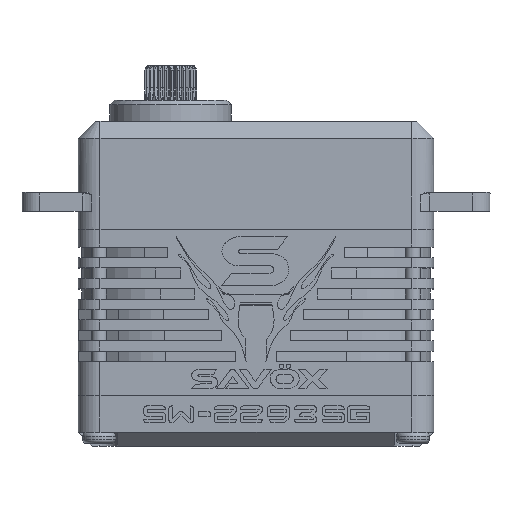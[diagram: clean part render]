
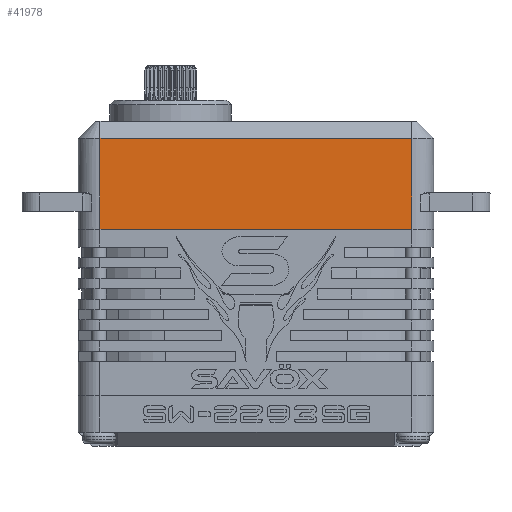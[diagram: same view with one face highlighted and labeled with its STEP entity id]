
A CAD part, top view. The second image highlights one B-rep face of the part: STEP entity #41978.
In plain terms, the highlighted planar face has unit normal (0, 0, 1).
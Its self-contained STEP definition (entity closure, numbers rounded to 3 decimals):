
#1065 = CARTESIAN_POINT ( 'NONE',  ( 27.85, -21.3, 10.5 ) ) ;
#1316 = LINE ( 'NONE', #1065, #19054 ) ;
#3129 = CARTESIAN_POINT ( 'NONE',  ( -8.15, -21.3, 10.5 ) ) ;
#5620 = DIRECTION ( 'NONE',  ( 0., 0., 1. ) ) ;
#7514 = LINE ( 'NONE', #23520, #29846 ) ;
#8866 = DIRECTION ( 'NONE',  ( 0., 1., 0. ) ) ;
#10767 = EDGE_CURVE ( 'NONE', #27109, #36460, #1316, .T. ) ;
#11105 = DIRECTION ( 'NONE',  ( 1., 0., 0. ) ) ;
#11151 = FACE_OUTER_BOUND ( 'NONE', #12976, .T. ) ;
#12140 = DIRECTION ( 'NONE',  ( 1., 0., 0. ) ) ;
#12976 = EDGE_LOOP ( 'NONE', ( #27828, #45577, #17795, #36327 ) ) ;
#13470 = CARTESIAN_POINT ( 'NONE',  ( -8.15, 8.4, 10.5 ) ) ;
#15971 = EDGE_CURVE ( 'NONE', #16050, #36460, #7514, .T. ) ;
#16050 = VERTEX_POINT ( 'NONE', #13470 ) ;
#17392 = VECTOR ( 'NONE', #11105, 1000. ) ;
#17795 = ORIENTED_EDGE ( 'NONE', *, *, #10767, .T. ) ;
#19054 = VECTOR ( 'NONE', #8866, 1000. ) ;
#21095 = VERTEX_POINT ( 'NONE', #27538 ) ;
#23520 = CARTESIAN_POINT ( 'NONE',  ( 27.85, 8.4, 10.5 ) ) ;
#26142 = LINE ( 'NONE', #30125, #17392 ) ;
#27109 = VERTEX_POINT ( 'NONE', #28475 ) ;
#27538 = CARTESIAN_POINT ( 'NONE',  ( -8.15, -2.1, 10.5 ) ) ;
#27828 = ORIENTED_EDGE ( 'NONE', *, *, #45115, .F. ) ;
#28475 = CARTESIAN_POINT ( 'NONE',  ( 27.85, -2.1, 10.5 ) ) ;
#29443 = LINE ( 'NONE', #3129, #31470 ) ;
#29846 = VECTOR ( 'NONE', #34541, 1000. ) ;
#30125 = CARTESIAN_POINT ( 'NONE',  ( 27.85, -2.1, 10.5 ) ) ;
#31470 = VECTOR ( 'NONE', #44565, 1000. ) ;
#32227 = EDGE_CURVE ( 'NONE', #21095, #27109, #26142, .T. ) ;
#34541 = DIRECTION ( 'NONE',  ( 1., 0., 0. ) ) ;
#36327 = ORIENTED_EDGE ( 'NONE', *, *, #15971, .F. ) ;
#36460 = VERTEX_POINT ( 'NONE', #36616 ) ;
#36616 = CARTESIAN_POINT ( 'NONE',  ( 27.85, 8.4, 10.5 ) ) ;
#38465 = AXIS2_PLACEMENT_3D ( 'NONE', #39978, #5620, #12140 ) ;
#39978 = CARTESIAN_POINT ( 'NONE',  ( 27.85, -21.3, 10.5 ) ) ;
#41763 = PLANE ( 'NONE',  #38465 ) ;
#41978 = ADVANCED_FACE ( 'NONE', ( #11151 ), #41763, .T. ) ;
#44565 = DIRECTION ( 'NONE',  ( 0., 1., 0. ) ) ;
#45115 = EDGE_CURVE ( 'NONE', #21095, #16050, #29443, .T. ) ;
#45577 = ORIENTED_EDGE ( 'NONE', *, *, #32227, .T. ) ;
